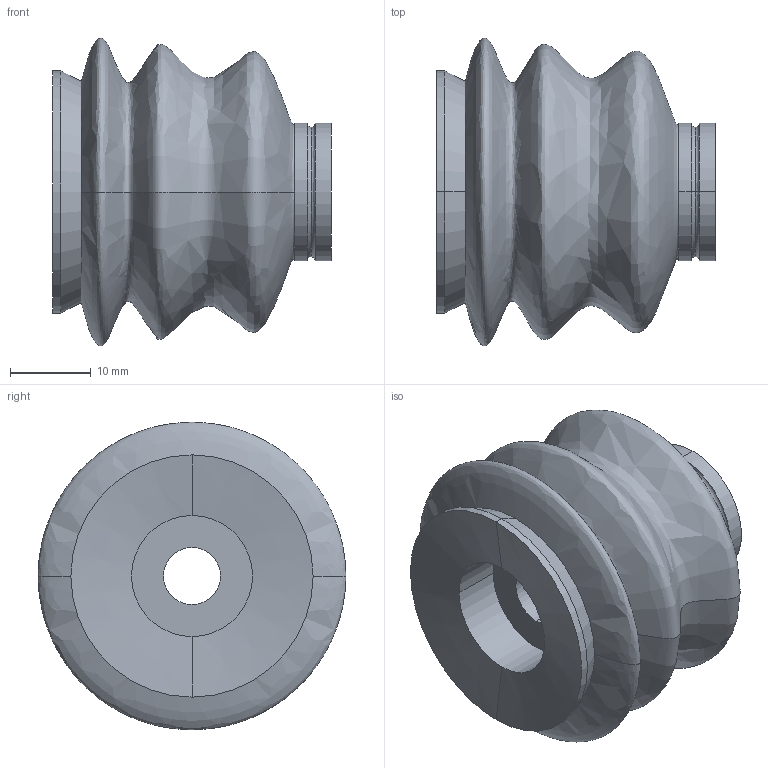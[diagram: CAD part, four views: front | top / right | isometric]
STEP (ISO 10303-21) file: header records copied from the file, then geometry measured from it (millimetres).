
FILE_DESCRIPTION (( 'STEP AP214' ), '1' );
FILE_NAME ('VSH-30R-3.STEP', '2019-11-14T02:00:33', ( '微软用户' ), ( '微软中国' ), 'SwSTEP 2.0', 'SolidWorks 2016', '' );
FILE_SCHEMA (( 'AUTOMOTIVE_DESIGN' ));
Length unit declared in the file: millimetre
Products named in the file (1): VSH-30R-3
Bounding box: 34.5 x 38.1 x 38.1 mm (x, y, z)
Volume: 21239.7 mm3; surface area: 6898.5 mm2
Topology: 1 solids, 1 shells, 28 faces, 62 edges, 38 vertices
Faces by surface type: cylinder 14, bspline 6, cone 4, plane 4
Entity records: 930 total; most frequent: CARTESIAN_POINT 277, DIRECTION 140, ORIENTED_EDGE 124, EDGE_CURVE 62, AXIS2_PLACEMENT_3D 61, VERTEX_POINT 38, CIRCLE 38, EDGE_LOOP 32
